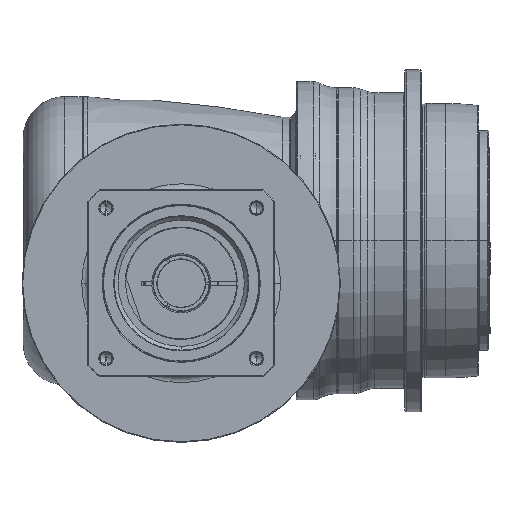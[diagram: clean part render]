
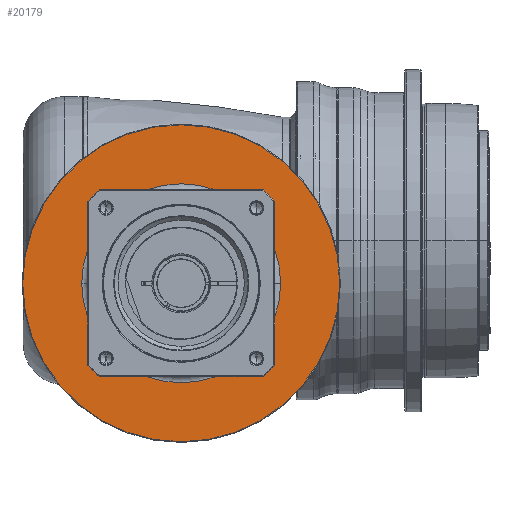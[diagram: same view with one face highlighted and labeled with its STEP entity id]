
A CAD part, front view. The second image highlights one B-rep face of the part: STEP entity #20179.
In plain terms, the highlighted planar face has unit normal (0, -1, 0) as drawn and (1, 0, 0) by its records, which use the part's own axes.
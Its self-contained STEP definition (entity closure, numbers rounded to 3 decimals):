
#19658=CARTESIAN_POINT('',(-7.5,0.,0.));
#19659=DIRECTION('',(-1.,0.,0.));
#19660=DIRECTION('',(0.,-1.,0.));
#19661=AXIS2_PLACEMENT_3D('',#19658,#19659,#19660);
#19663=CARTESIAN_POINT('',(-7.5,0.,0.));
#19664=DIRECTION('',(-1.,0.,0.));
#19665=DIRECTION('',(0.,1.,0.));
#19666=AXIS2_PLACEMENT_3D('',#19663,#19664,#19665);
#19668=CARTESIAN_POINT('',(-7.5,0.,0.));
#19669=DIRECTION('',(-1.,0.,0.));
#19670=DIRECTION('',(0.,-1.,0.));
#19671=AXIS2_PLACEMENT_3D('',#19668,#19669,#19670);
#19673=CARTESIAN_POINT('',(-7.5,0.,0.));
#19674=DIRECTION('',(-1.,0.,0.));
#19675=DIRECTION('',(0.,1.,0.));
#19676=AXIS2_PLACEMENT_3D('',#19673,#19674,#19675);
#19742=CARTESIAN_POINT('',(-7.5,-115.5,0.));
#19743=CARTESIAN_POINT('',(-7.5,115.5,0.));
#19744=VERTEX_POINT('',#19742);
#19745=VERTEX_POINT('',#19743);
#19766=CARTESIAN_POINT('',(-7.5,-72.5,0.));
#19767=CARTESIAN_POINT('',(-7.5,72.5,0.));
#19768=VERTEX_POINT('',#19766);
#19769=VERTEX_POINT('',#19767);
#20164=CARTESIAN_POINT('',(-7.5,0.,0.));
#20165=DIRECTION('',(1.,0.,0.));
#20166=DIRECTION('',(0.,-1.,0.));
#20167=AXIS2_PLACEMENT_3D('',#20164,#20165,#20166);
#20168=PLANE('',#20167);
#20169=ORIENTED_EDGE('',*,*,#20105,.T.);
#20170=ORIENTED_EDGE('',*,*,#20120,.T.);
#20171=EDGE_LOOP('',(#20169,#20170));
#20172=FACE_OUTER_BOUND('',#20171,.F.);
#20174=ORIENTED_EDGE('',*,*,#20173,.F.);
#20176=ORIENTED_EDGE('',*,*,#20175,.F.);
#20177=EDGE_LOOP('',(#20174,#20176));
#20178=FACE_BOUND('',#20177,.F.);
#20179=ADVANCED_FACE('',(#20172,#20178),#20168,.T.);
#19662=CIRCLE('',#19661,72.5);
#19667=CIRCLE('',#19666,72.5);
#19672=CIRCLE('',#19671,115.5);
#19677=CIRCLE('',#19676,115.5);
#20105=EDGE_CURVE('',#19744,#19745,#19672,.T.);
#20120=EDGE_CURVE('',#19745,#19744,#19677,.T.);
#20173=EDGE_CURVE('',#19768,#19769,#19662,.T.);
#20175=EDGE_CURVE('',#19769,#19768,#19667,.T.);
